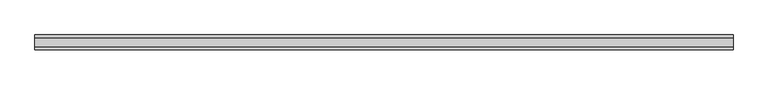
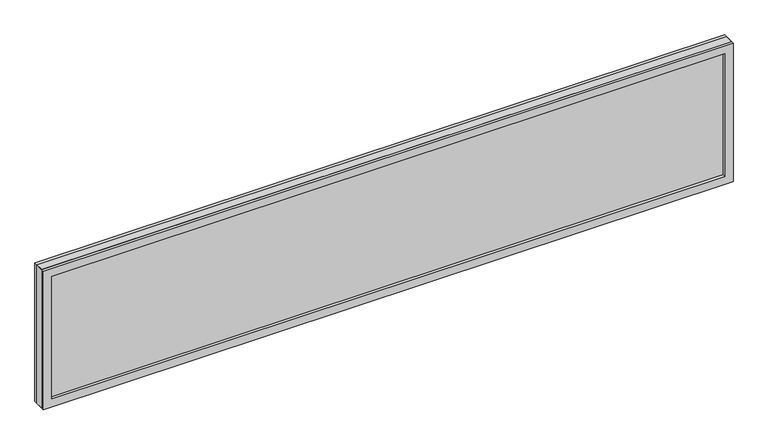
"""IFC4 building model written with IfcOpenShell, lengths in millimetres: plate geometry, ARQ-PA-IN-Vidrio Fijo : ARQ-PA-IN-Vidrio Fijo."""

from ifc_helpers import new_model, si_unit, frame, origin, origin_with_axes, place, context, project, spatial, polyline, outline, extrude, source, transform, mapped, element, save


def plate_0e3e9aa2(model_context):
    return source(origin(), model_context, "Body", "SweptSolid", [
        extrude(outline(polyline([(825.0, 10.0), (825.0, -10.0), (-825.0, -10.0), (-825.0, 10.0), (825.0, 10.0)])), origin_with_axes(), (0.0, 0.0, 1.0), 350.0),
        extrude(outline(polyline([(350.0, -825.0), (0.0, -825.0), (0.0, 825.0), (350.0, 825.0), (350.0, -825.0)]), holes=[polyline([(330.0, -805.0), (330.0, 805.0), (20.0, 805.0), (20.0, -805.0), (330.0, -805.0)])]), frame((0.0, -17.5, 0.0), z_axis=(0.0, 1.0, 0.0), x_axis=(0.0, 0.0, 1.0)), (0.0, 0.0, 1.0), 35.0),
    ])


if __name__ == "__main__":
    model = new_model("IFC4")
    model_context = context("Model", 3, world=origin())
    ifc_project = project(units=[si_unit("LENGTHUNIT", "METRE", prefix="MILLI")], contexts=[model_context])
    site = spatial("IfcSite", under=ifc_project)
    building = spatial("IfcBuilding", under=site)
    placement = place(None, origin())
    plate_shape = plate_0e3e9aa2(model_context)
    element("IfcPlate", 1, ObjectType="ARQ-PA-IN-Vidrio Fijo : ARQ-PA-IN-Vidrio Fijo", at=placement, inside=building, context=model_context, shape_type="MappedRepresentation", body=[
        mapped(plate_shape, transform((0.0, 0.0, 0.0), x_axis=(1.0, 0.0, 0.0), y_axis=(0.0, 1.0, 0.0), z_axis=(0.0, 0.0, 1.0))),
    ])
    save(model, "model.ifc")
